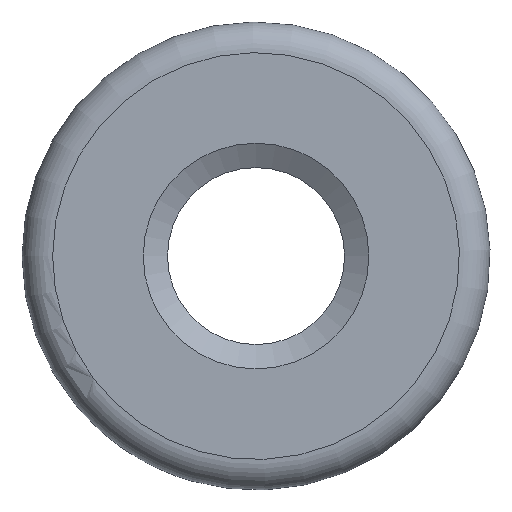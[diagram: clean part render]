
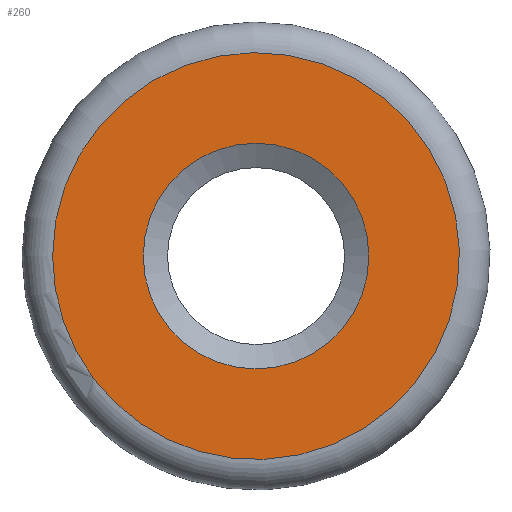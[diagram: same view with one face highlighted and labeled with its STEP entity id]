
A CAD part, front view. The second image highlights one B-rep face of the part: STEP entity #260.
In plain terms, the highlighted planar face has unit normal (0, -1, 0).
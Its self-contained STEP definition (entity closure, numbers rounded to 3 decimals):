
#44=PLANE($,#285);
#55=FACE_BOUND($,#84,.T.);
#62=FACE_OUTER_BOUND($,#83,.T.);
#83=EDGE_LOOP($,(#181));
#84=EDGE_LOOP($,(#182));
#106=CIRCLE($,#282,3.134);
#108=CIRCLE($,#286,5.65);
#118=VERTEX_POINT($,#385);
#120=VERTEX_POINT($,#391);
#142=EDGE_CURVE($,#118,#118,#106,.T.);
#144=EDGE_CURVE($,#120,#120,#108,.T.);
#181=ORIENTED_EDGE($,*,*,#144,.T.);
#182=ORIENTED_EDGE($,*,*,#142,.F.);
#260=ADVANCED_FACE($,(#62,#55),#44,.F.);
#282=AXIS2_PLACEMENT_3D($,#386,#317,#318);
#285=AXIS2_PLACEMENT_3D($,#390,#323,#324);
#286=AXIS2_PLACEMENT_3D($,#392,#325,#326);
#317=DIRECTION('center_axis',(0.,-1.,0.));
#318=DIRECTION('ref_axis',(1.,0.,0.));
#323=DIRECTION('center_axis',(0.,1.,0.));
#324=DIRECTION('ref_axis',(0.,0.,1.));
#325=DIRECTION('center_axis',(0.,-1.,0.));
#326=DIRECTION('ref_axis',(0.,0.,-1.));
#385=CARTESIAN_POINT('',(-3.134,0.,0.));
#386=CARTESIAN_POINT('Origin',(0.,0.,0.));
#390=CARTESIAN_POINT('Origin',(0.,0.,0.));
#391=CARTESIAN_POINT('',(0.221,0.,-5.646));
#392=CARTESIAN_POINT('Origin',(0.,0.,0.));
